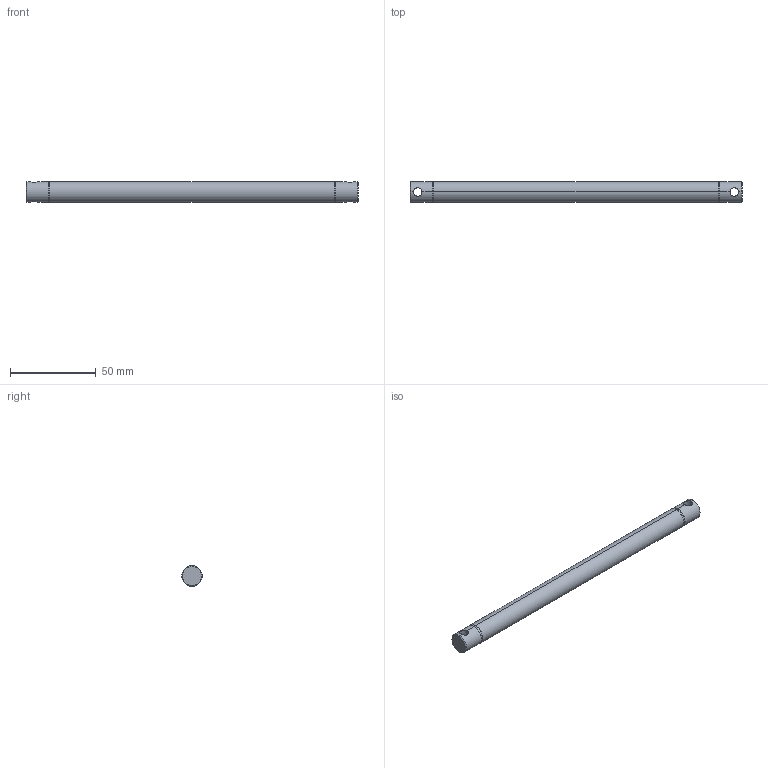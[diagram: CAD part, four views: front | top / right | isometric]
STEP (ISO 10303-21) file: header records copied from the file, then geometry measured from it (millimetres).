
FILE_DESCRIPTION (( 'STEP AP214' ), '1' );
FILE_NAME ('084.801.020.150.STEP', '2021-02-05T15:57:01', ( '' ), ( '' ), 'SwSTEP 2.0', 'SolidWorks 2018', '' );
FILE_SCHEMA (( 'AUTOMOTIVE_DESIGN' ));
Length unit declared in the file: millimetre
Products named in the file (1): 084.801.020.150
Bounding box: 194 x 12 x 12 mm (x, y, z)
Volume: 21450.6 mm3; surface area: 7830.2 mm2
Topology: 1 solids, 1 shells, 24 faces, 54 edges, 32 vertices
Faces by surface type: cylinder 14, plane 6, cone 4
Entity records: 976 total; most frequent: CARTESIAN_POINT 351, DIRECTION 120, ORIENTED_EDGE 108, EDGE_CURVE 54, AXIS2_PLACEMENT_3D 49, VERTEX_POINT 32, EDGE_LOOP 28, FACE_OUTER_BOUND 24
